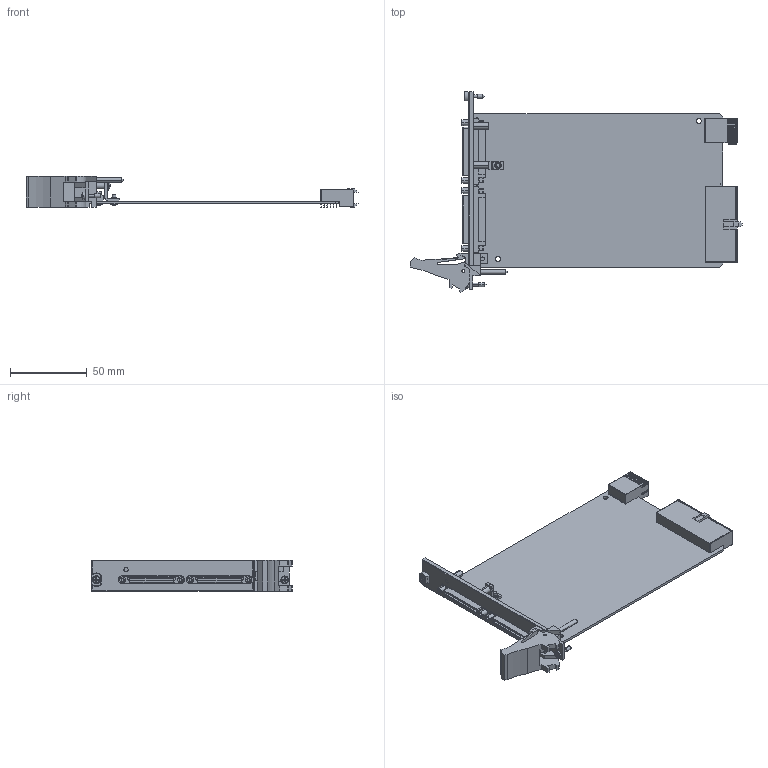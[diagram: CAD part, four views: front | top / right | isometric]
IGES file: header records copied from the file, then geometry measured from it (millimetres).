
Start section:  PTC IGES file: cu_pxi-733x_734x.igs
Global section: file name: cu_pxi-733x_734x.igs; native system: Creo Parametric by Parametric Technology Corporation; preprocessor: 2014000; author: dkendric; organization: Unknown; date: 20150317.125406; units: inch
Bounding box: 216.08 x 130.51 x 20.19 mm (x, y, z)
Surface area: 52718.1 mm2 (no closed solid volume)
Topology: 0 solids, 0 shells, 1742 faces, 9026 edges, 9002 vertices
Faces by surface type: bspline 1333, revolution 409
